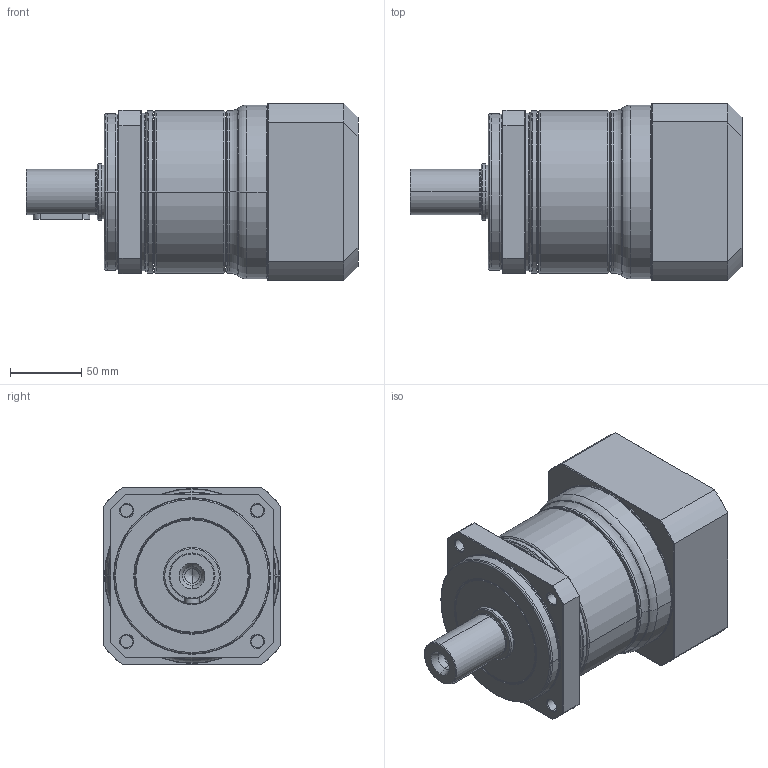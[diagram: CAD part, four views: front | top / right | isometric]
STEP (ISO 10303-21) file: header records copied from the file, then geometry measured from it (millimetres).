
FILE_DESCRIPTION((''),'2;1');
FILE_NAME('PA2-115_1ST_32-P0411700101_ASM','2016-05-05T',('d01943'),(''),'PRO/ENGINEER BY PARAMETRIC TECHNOLOGY CORPORATION, 2008410','PRO/ENGINEER BY PARAMETRIC TECHNOLOGY CORPORATION, 2008410','');
FILE_SCHEMA(('CONFIG_CONTROL_DESIGN'));
Length unit declared in the file: millimetre
Products named in the file (9): P1327410001; P0250400001; P1324400301; P0350400601; P0941403001; P0503700010; P0411700101; P1702600001; PA2-115_1ST_32-P0411700101_ASM
Assembly tree (8 placements, depth 2):
  PA2-115_1ST_32-P0411700101_ASM
    P1327410001
    P0250400001
    P1324400301
    P0350400601
    P0941403001
    P0503700010
    P0411700101
    P1702600001
Bounding box: 233.5 x 125 x 125 mm (x, y, z)
Volume: 1616052.7 mm3; surface area: 263206.6 mm2
Topology: 8 solids, 8 shells, 460 faces, 1009 edges, 582 vertices
Faces by surface type: cone 142, cylinder 129, torus 88, plane 85, bspline 16
Entity records: 17408 total; most frequent: CARTESIAN_POINT 7044, DIRECTION 2342, ORIENTED_EDGE 1978, AXIS2_PLACEMENT_3D 999, EDGE_CURVE 989, VERTEX_POINT 582, CIRCLE 538, EDGE_LOOP 521
